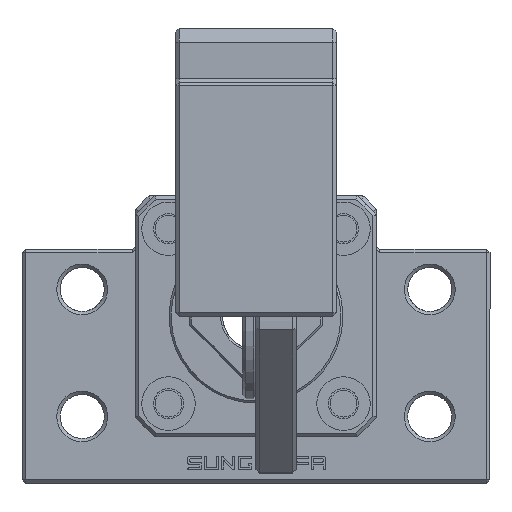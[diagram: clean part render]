
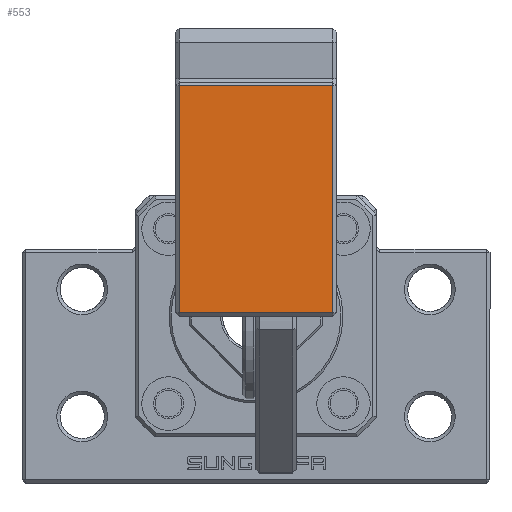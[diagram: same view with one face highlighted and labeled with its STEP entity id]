
A CAD part, left-side view. The second image highlights one B-rep face of the part: STEP entity #553.
In plain terms, the highlighted planar face has unit normal (-1, 0, 0).
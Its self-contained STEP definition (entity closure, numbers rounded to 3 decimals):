
#553 = ADVANCED_FACE( '', ( #1388 ), #1389, .T. );
#1388 = FACE_OUTER_BOUND( '', #3019, .T. );
#1389 = PLANE( '', #3020 );
#3019 = EDGE_LOOP( '', ( #4983, #4984, #4985, #4986 ) );
#3020 = AXIS2_PLACEMENT_3D( '', #4987, #4988, #4989 );
#4983 = ORIENTED_EDGE( '', *, *, #10103, .T. );
#4984 = ORIENTED_EDGE( '', *, *, #10104, .T. );
#4985 = ORIENTED_EDGE( '', *, *, #10105, .T. );
#4986 = ORIENTED_EDGE( '', *, *, #10106, .T. );
#4987 = CARTESIAN_POINT( '', ( -35., -12., 0. ) );
#4988 = DIRECTION( '', ( -1., 0., 0. ) );
#4989 = DIRECTION( '', ( 0., 0., 1. ) );
#10103 = EDGE_CURVE( '', #12061, #12062, #12063, .T. );
#10104 = EDGE_CURVE( '', #12062, #12064, #12065, .T. );
#10105 = EDGE_CURVE( '', #12064, #12066, #12067, .T. );
#10106 = EDGE_CURVE( '', #12066, #12061, #12068, .T. );
#12061 = VERTEX_POINT( '', #15269 );
#12062 = VERTEX_POINT( '', #15270 );
#12063 = LINE( '', #15271, #15272 );
#12064 = VERTEX_POINT( '', #15273 );
#12065 = LINE( '', #15274, #15275 );
#12066 = VERTEX_POINT( '', #15276 );
#12067 = LINE( '', #15277, #15278 );
#12068 = LINE( '', #15279, #15280 );
#15269 = CARTESIAN_POINT( '', ( -35., -11.5, 34.5 ) );
#15270 = CARTESIAN_POINT( '', ( -35., 11.5, 34.5 ) );
#15271 = CARTESIAN_POINT( '', ( -35., -12., 34.5 ) );
#15272 = VECTOR( '', #19626, 1000. );
#15273 = CARTESIAN_POINT( '', ( -35., 11.5, 0.5 ) );
#15274 = CARTESIAN_POINT( '', ( -35., 11.5, 0. ) );
#15275 = VECTOR( '', #19627, 1000. );
#15276 = CARTESIAN_POINT( '', ( -35., -11.5, 0.5 ) );
#15277 = CARTESIAN_POINT( '', ( -35., -12., 0.5 ) );
#15278 = VECTOR( '', #19628, 1000. );
#15279 = CARTESIAN_POINT( '', ( -35., -11.5, 0. ) );
#15280 = VECTOR( '', #19629, 1000. );
#19626 = DIRECTION( '', ( 0., 1., 0. ) );
#19627 = DIRECTION( '', ( 0., 0., -1. ) );
#19628 = DIRECTION( '', ( 0., -1., 0. ) );
#19629 = DIRECTION( '', ( 0., 0., 1. ) );
